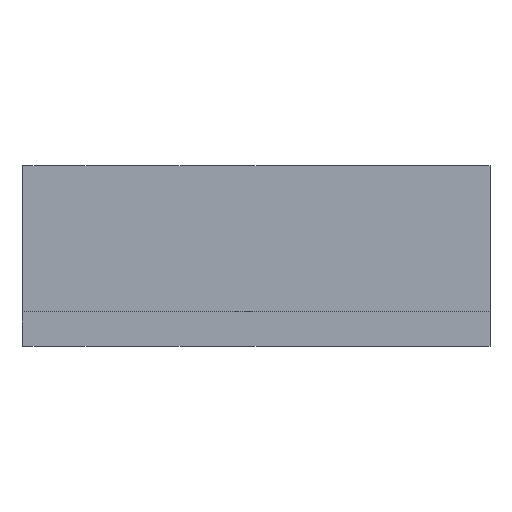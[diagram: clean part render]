
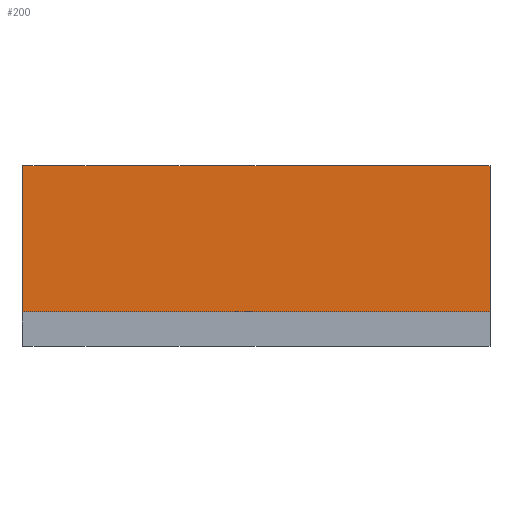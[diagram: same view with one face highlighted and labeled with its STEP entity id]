
A CAD part, front view. The second image highlights one B-rep face of the part: STEP entity #200.
In plain terms, the highlighted planar face has unit normal (0, -1, 0).
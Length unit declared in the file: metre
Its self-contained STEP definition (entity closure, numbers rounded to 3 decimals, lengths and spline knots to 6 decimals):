
#17=PLANE('',#230);
#25=LINE('',#311,#41);
#30=LINE('',#326,#46);
#33=LINE('',#332,#49);
#34=LINE('',#338,#50);
#41=VECTOR('',#252,1.);
#46=VECTOR('',#267,1.);
#49=VECTOR('',#274,1.);
#50=VECTOR('',#281,1.);
#85=ORIENTED_EDGE('',*,*,#120,.T.);
#86=ORIENTED_EDGE('',*,*,#114,.F.);
#87=ORIENTED_EDGE('',*,*,#117,.F.);
#88=ORIENTED_EDGE('',*,*,#107,.T.);
#107=EDGE_CURVE('',#127,#130,#25,.T.);
#114=EDGE_CURVE('',#135,#136,#30,.T.);
#117=EDGE_CURVE('',#127,#135,#33,.T.);
#120=EDGE_CURVE('',#130,#136,#34,.T.);
#127=VERTEX_POINT('',#304);
#130=VERTEX_POINT('',#310);
#135=VERTEX_POINT('',#325);
#136=VERTEX_POINT('',#327);
#161=EDGE_LOOP('',(#85,#86,#87,#88));
#181=FACE_BOUND('',#161,.T.);
#200=ADVANCED_FACE('',(#181),#17,.F.);
#230=AXIS2_PLACEMENT_3D('',#337,#279,#280);
#252=DIRECTION('',(0.,0.,-1.));
#267=DIRECTION('',(0.,0.,-1.));
#274=DIRECTION('',(1.,0.,0.));
#279=DIRECTION('',(0.,1.,0.));
#280=DIRECTION('',(1.,0.,0.));
#281=DIRECTION('',(1.,0.,0.));
#304=CARTESIAN_POINT('',(-0.01025,-0.0285,0.0064));
#310=CARTESIAN_POINT('',(-0.01025,-0.0285,0.));
#311=CARTESIAN_POINT('',(-0.01025,-0.0285,0.0064));
#325=CARTESIAN_POINT('',(0.01025,-0.0285,0.0064));
#326=CARTESIAN_POINT('',(0.01025,-0.0285,0.0064));
#327=CARTESIAN_POINT('',(0.01025,-0.0285,0.));
#332=CARTESIAN_POINT('',(0.,-0.0285,0.0064));
#337=CARTESIAN_POINT('',(0.,-0.0285,0.0064));
#338=CARTESIAN_POINT('',(0.,-0.0285,0.));
